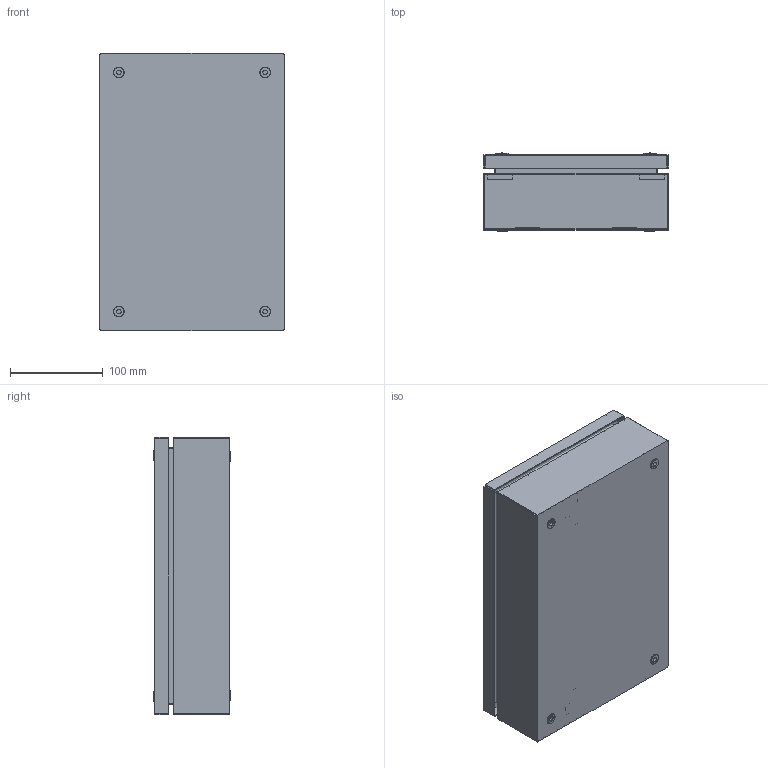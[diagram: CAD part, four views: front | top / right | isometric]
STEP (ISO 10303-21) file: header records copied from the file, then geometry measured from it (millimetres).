
FILE_DESCRIPTION(('Open CASCADE Model'),'2;1');
FILE_NAME('Open CASCADE Shape Model','2025-11-12T17:51:54',('Author'),( 'Open CASCADE'),'Open CASCADE STEP processor 7.8','Open CASCADE 7.8' ,'Unknown');
FILE_SCHEMA(('AUTOMOTIVE_DESIGN { 1 0 10303 214 1 1 1 1 }'));
Length unit declared in the file: millimetre
Products named in the file (16): Compound1; Compound2; Compound3; Solid1; Solid2; Solid3; Solid4; Solid5; Compound4; Compound5; Solid6; Solid7; Solid8; Solid9; Solid10; Solid11
Assembly tree (31 placements, depth 5):
  Compound1
    Compound2
      Compound3
        Solid1
        Solid2  x2
        Solid3  x2
        Solid4  x2
        Solid5
      Compound4
        Compound5
          Solid6
          Solid5
        Solid7
      Solid8  x4
      Solid9  x4
      Solid10  x4
    Solid11  x4
Bounding box: 200 x 83.79 x 300 mm (x, y, z)
Volume: 384248.9 mm3; surface area: 535860.2 mm2
Topology: 27 solids, 27 shells, 912 faces, 2456 edges, 1624 vertices
Faces by surface type: plane 668, cylinder 130, cone 46, bspline 32, torus 28, sphere 8
Full cylindrical faces by diameter (mm): 4 x14, 4.134 x4, 5 x8, 5.2 x4, 5.3 x4, 5.5 x4, 6 x2, 6.5 x4, 7.5 x6, 8 x8, 8.5 x4, 11.5 x4, 13.5 x4, 15.791 x4
Entity records: 14877 total; most frequent: CARTESIAN_POINT 4237, ORIENTED_EDGE 2226, DIRECTION 2016, EDGE_CURVE 1113, LINE 766, VECTOR 766, VERTEX_POINT 736, AXIS2_PLACEMENT_3D 625
